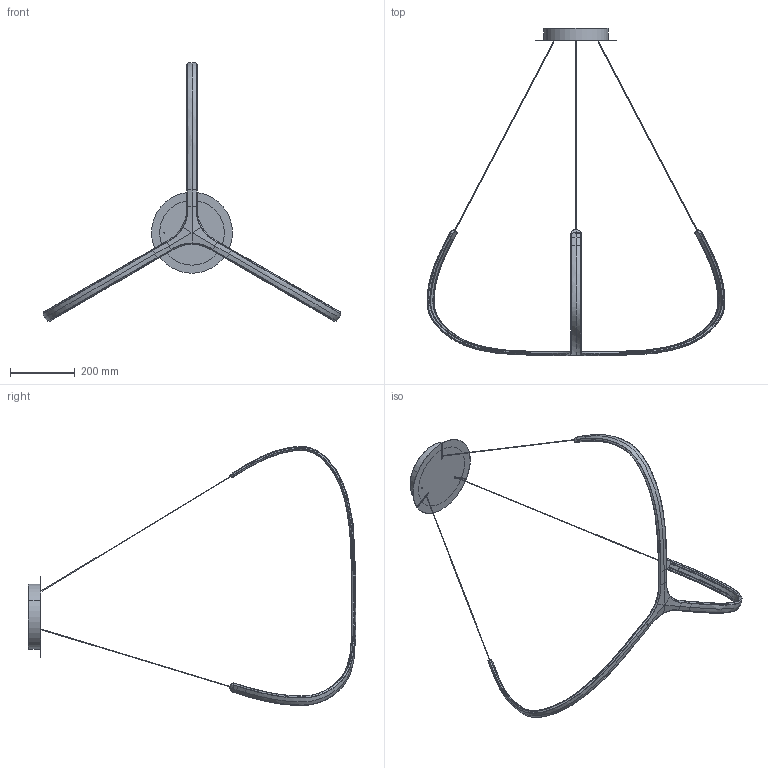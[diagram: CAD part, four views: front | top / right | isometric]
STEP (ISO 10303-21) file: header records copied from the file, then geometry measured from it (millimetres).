
FILE_DESCRIPTION (( 'STEP AP214' ), '1' );
FILE_NAME ('3D_ALYA.STEP', '2018-02-21T14:10:40', ( 'Utente' ), ( '' ), 'SwSTEP 2.0', 'SolidWorks 2016', '' );
FILE_SCHEMA (( 'AUTOMOTIVE_DESIGN' ));
Length unit declared in the file: millimetre
Products named in the file (5): Group5^3D_ALYA; Group4^3D_ALYA; 3D_ALYA; 052ALY000100_Coperchio Trittico-1^3D_ALYA; Group6^3D_ALYA
Assembly tree (4 placements, depth 2):
  3D_ALYA
    Group4^3D_ALYA
    Group5^3D_ALYA
    Group6^3D_ALYA
    052ALY000100_Coperchio Trittico-1^3D_ALYA
Bounding box: 919.94 x 1012.5 x 799.76 mm (x, y, z)
Volume: 2076248.3 mm3; surface area: 514865.2 mm2
Topology: 10 solids, 10 shells, 647 faces, 1600 edges, 977 vertices
Faces by surface type: plane 325, bspline 171, cylinder 116, torus 23, cone 12
Entity records: 37915 total; most frequent: CARTESIAN_POINT 22287, ORIENTED_EDGE 3200, DIRECTION 2544, EDGE_CURVE 1600, VECTOR 986, LINE 986, VERTEX_POINT 977, AXIS2_PLACEMENT_3D 779
